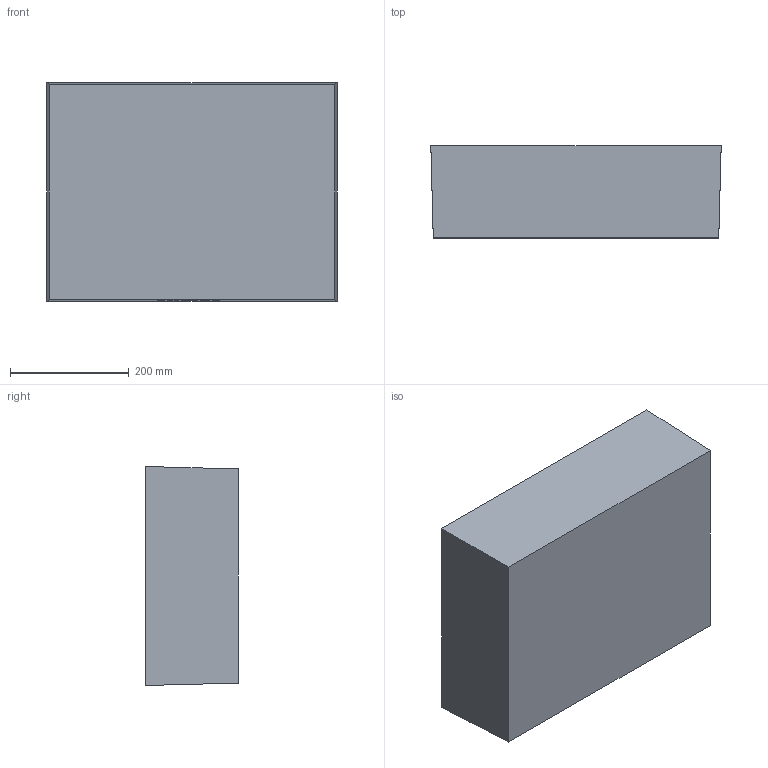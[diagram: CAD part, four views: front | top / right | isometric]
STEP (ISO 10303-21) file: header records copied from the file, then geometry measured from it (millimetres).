
FILE_DESCRIPTION (( 'STEP AP203' ), '1' );
FILE_NAME ('bottom inside type 6000.STEP', '2023-03-13T12:22:30', ( '' ), ( '' ), 'SwSTEP 2.0', 'SolidWorks 2022', '' );
FILE_SCHEMA (( 'CONFIG_CONTROL_DESIGN' ));
Length unit declared in the file: millimetre
Products named in the file (1): bottom inside type 6000
Bounding box: 488 x 155 x 368 mm (x, y, z)
Volume: 2020605.8 mm3; surface area: 860011.3 mm2
Topology: 1 solids, 1 shells, 132 faces, 366 edges, 243 vertices
Faces by surface type: plane 93, cone 20, bspline 13, cylinder 4, torus 2
Entity records: 5191 total; most frequent: CARTESIAN_POINT 1881, ORIENTED_EDGE 728, DIRECTION 590, EDGE_CURVE 364, LINE 262, VECTOR 262, VERTEX_POINT 243, AXIS2_PLACEMENT_3D 164
